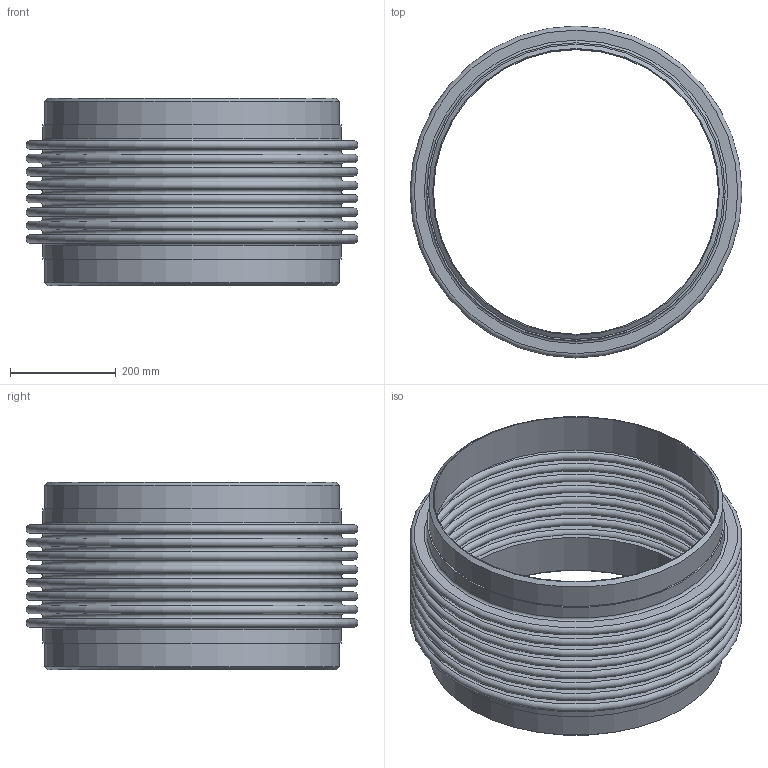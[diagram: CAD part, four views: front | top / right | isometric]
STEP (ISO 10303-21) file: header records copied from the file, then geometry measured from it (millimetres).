
FILE_DESCRIPTION(/* description */ ('EXPANSION JOINT,SINGLE, WELD ENDS,4 INCH NOMINAL'),/* implementation_level */ '2;1');
FILE_NAME(/* name */ 'US-22-300S- WELD-ENDS.stp',/* time_stamp */ '2026-07-28T11:20:18-05:00',/* author */ ('jorgef'),/* organization */ (''),/* preprocessor_version */ 'ST-DEVELOPER v20.1',/* originating_system */ 'Autodesk Inventor 2026',/* authorisation */ '');
FILE_SCHEMA (('AUTOMOTIVE_DESIGN { 1 0 10303 214 3 1 1 }'));
Length unit declared in the file: inch
Products named in the file (3): SINGLE STOCK  BELLOW WELDED ENDS  22-300 PSIG; STOCK BELLOW - US-22-8-300S; PIPE- 22 -300 PSIG
Assembly tree (3 placements, depth 2):
  SINGLE STOCK  BELLOW WELDED ENDS  22-300 PSIG
    STOCK BELLOW - US-22-8-300S
    PIPE- 22 -300 PSIG  x2
Bounding box: 628.65 x 628.65 x 355.6 mm (x, y, z)
Volume: 6253207.1 mm3; surface area: 3124442.6 mm2
Topology: 5 solids, 5 shells, 86 faces, 132 edges, 89 vertices
Faces by surface type: plane 42, torus 34, cylinder 8, cone 2
Full cylindrical faces by diameter (mm): 539.75 x2, 558.8 x4, 564.896 x2
Entity records: 2033 total; most frequent: DIRECTION 413, CARTESIAN_POINT 293, ORIENTED_EDGE 246, AXIS2_PLACEMENT_3D 203, EDGE_CURVE 123, EDGE_LOOP 121, CIRCLE 116, VERTEX_POINT 82
